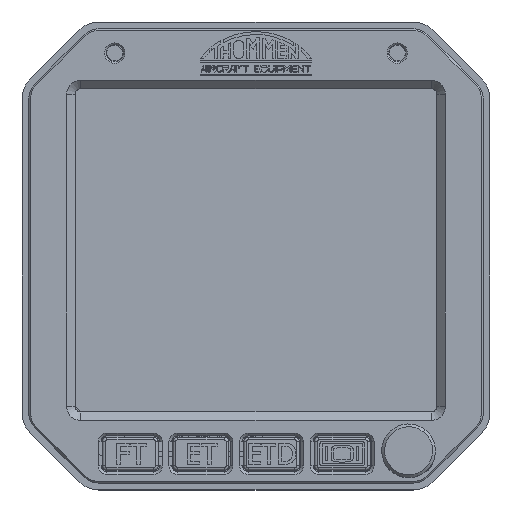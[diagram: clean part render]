
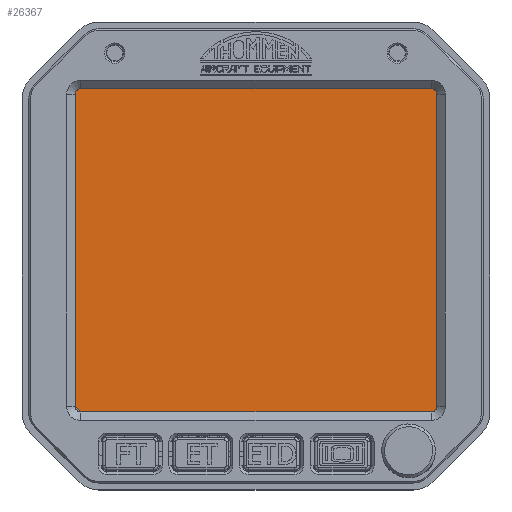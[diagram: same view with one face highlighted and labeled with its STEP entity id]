
A CAD part, top view. The second image highlights one B-rep face of the part: STEP entity #26367.
In plain terms, the highlighted planar face has unit normal (0, 0, 1).
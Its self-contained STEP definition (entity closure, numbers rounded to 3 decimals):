
#3732 = AXIS2_PLACEMENT_3D ( 'NONE', #49569, #29076, #25328 ) ;
#3911 = CARTESIAN_POINT ( 'NONE',  ( -24.117, -18.709, 77.588 ) ) ;
#5428 = VECTOR ( 'NONE', #20167, 1000. ) ;
#6272 = EDGE_CURVE ( 'NONE', #17209, #65920, #24787, .T. ) ;
#6468 = ORIENTED_EDGE ( 'NONE', *, *, #6272, .T. ) ;
#6591 = DIRECTION ( 'NONE',  ( 0.707, -0.707, 0. ) ) ;
#7325 = ORIENTED_EDGE ( 'NONE', *, *, #61322, .T. ) ;
#8095 = CARTESIAN_POINT ( 'NONE',  ( -20.917, -15.509, 77.588 ) ) ;
#9959 = VECTOR ( 'NONE', #35552, 1000. ) ;
#10937 = ORIENTED_EDGE ( 'NONE', *, *, #38773, .T. ) ;
#12383 = VERTEX_POINT ( 'NONE', #28287 ) ;
#14230 = FACE_OUTER_BOUND ( 'NONE', #60340, .T. ) ;
#14895 = ORIENTED_EDGE ( 'NONE', *, *, #33620, .T. ) ;
#16971 = LINE ( 'NONE', #23027, #38860 ) ;
#17209 = VERTEX_POINT ( 'NONE', #42635 ) ;
#17758 = VERTEX_POINT ( 'NONE', #45367 ) ;
#17784 = VECTOR ( 'NONE', #6591, 1000. ) ;
#19089 = DIRECTION ( 'NONE',  ( -0.707, -0.707, 0. ) ) ;
#19525 = CARTESIAN_POINT ( 'NONE',  ( -20.917, 44.691, 77.588 ) ) ;
#19689 = ORIENTED_EDGE ( 'NONE', *, *, #23467, .F. ) ;
#20167 = DIRECTION ( 'NONE',  ( 0., 1., 0. ) ) ;
#20956 = CARTESIAN_POINT ( 'NONE',  ( -23.917, 44.691, 77.588 ) ) ;
#23027 = CARTESIAN_POINT ( 'NONE',  ( -90.917, 44.691, 77.588 ) ) ;
#23467 = EDGE_CURVE ( 'NONE', #17209, #17758, #38279, .T. ) ;
#24787 = LINE ( 'NONE', #46298, #9959 ) ;
#25328 = DIRECTION ( 'NONE',  ( 0., -1., 0. ) ) ;
#25608 = VECTOR ( 'NONE', #48010, 1000. ) ;
#26367 = ADVANCED_FACE ( 'NONE', ( #14230 ), #45530, .T. ) ;
#27175 = VERTEX_POINT ( 'NONE', #44103 ) ;
#27444 = DIRECTION ( 'NONE',  ( 0., -1., 0. ) ) ;
#28287 = CARTESIAN_POINT ( 'NONE',  ( -20.917, 41.691, 77.588 ) ) ;
#28586 = CARTESIAN_POINT ( 'NONE',  ( -23.917, -18.509, 77.588 ) ) ;
#29076 = DIRECTION ( 'NONE',  ( 0., 0., 1. ) ) ;
#30026 = CARTESIAN_POINT ( 'NONE',  ( -90.917, 41.691, 77.588 ) ) ;
#30858 = EDGE_CURVE ( 'NONE', #59468, #65920, #35568, .T. ) ;
#33620 = EDGE_CURVE ( 'NONE', #37332, #17758, #16971, .T. ) ;
#35552 = DIRECTION ( 'NONE',  ( 1., 0., 0. ) ) ;
#35568 = LINE ( 'NONE', #3911, #39734 ) ;
#35628 = EDGE_CURVE ( 'NONE', #37332, #27175, #39453, .T. ) ;
#37129 = EDGE_CURVE ( 'NONE', #40377, #12383, #41305, .T. ) ;
#37332 = VERTEX_POINT ( 'NONE', #30026 ) ;
#38279 = LINE ( 'NONE', #63879, #25608 ) ;
#38773 = EDGE_CURVE ( 'NONE', #59468, #12383, #45742, .T. ) ;
#38860 = VECTOR ( 'NONE', #27444, 1000. ) ;
#39453 = LINE ( 'NONE', #60027, #60736 ) ;
#39652 = ORIENTED_EDGE ( 'NONE', *, *, #37129, .F. ) ;
#39734 = VECTOR ( 'NONE', #19089, 1000. ) ;
#40377 = VERTEX_POINT ( 'NONE', #20956 ) ;
#41305 = LINE ( 'NONE', #61859, #17784 ) ;
#42635 = CARTESIAN_POINT ( 'NONE',  ( -87.917, -18.509, 77.588 ) ) ;
#44103 = CARTESIAN_POINT ( 'NONE',  ( -87.917, 44.691, 77.588 ) ) ;
#44180 = DIRECTION ( 'NONE',  ( 0.707, 0.707, 0. ) ) ;
#45367 = CARTESIAN_POINT ( 'NONE',  ( -90.917, -15.509, 77.588 ) ) ;
#45424 = LINE ( 'NONE', #19525, #51921 ) ;
#45530 = PLANE ( 'NONE',  #3732 ) ;
#45742 = LINE ( 'NONE', #66314, #5428 ) ;
#46298 = CARTESIAN_POINT ( 'NONE',  ( -90.917, -18.509, 77.588 ) ) ;
#47356 = ORIENTED_EDGE ( 'NONE', *, *, #30858, .F. ) ;
#48010 = DIRECTION ( 'NONE',  ( -0.707, 0.707, 0. ) ) ;
#49569 = CARTESIAN_POINT ( 'NONE',  ( -55.917, 13.091, 77.588 ) ) ;
#51921 = VECTOR ( 'NONE', #60590, 1000. ) ;
#54506 = ORIENTED_EDGE ( 'NONE', *, *, #35628, .F. ) ;
#59468 = VERTEX_POINT ( 'NONE', #8095 ) ;
#60027 = CARTESIAN_POINT ( 'NONE',  ( -87.717, 44.891, 77.588 ) ) ;
#60340 = EDGE_LOOP ( 'NONE', ( #47356, #10937, #39652, #7325, #54506, #14895, #19689, #6468 ) ) ;
#60590 = DIRECTION ( 'NONE',  ( -1., 0., 0. ) ) ;
#60736 = VECTOR ( 'NONE', #44180, 1000. ) ;
#61322 = EDGE_CURVE ( 'NONE', #40377, #27175, #45424, .T. ) ;
#61859 = CARTESIAN_POINT ( 'NONE',  ( -24.117, 44.891, 77.588 ) ) ;
#63879 = CARTESIAN_POINT ( 'NONE',  ( -87.717, -18.709, 77.588 ) ) ;
#65920 = VERTEX_POINT ( 'NONE', #28586 ) ;
#66314 = CARTESIAN_POINT ( 'NONE',  ( -20.917, -18.509, 77.588 ) ) ;
